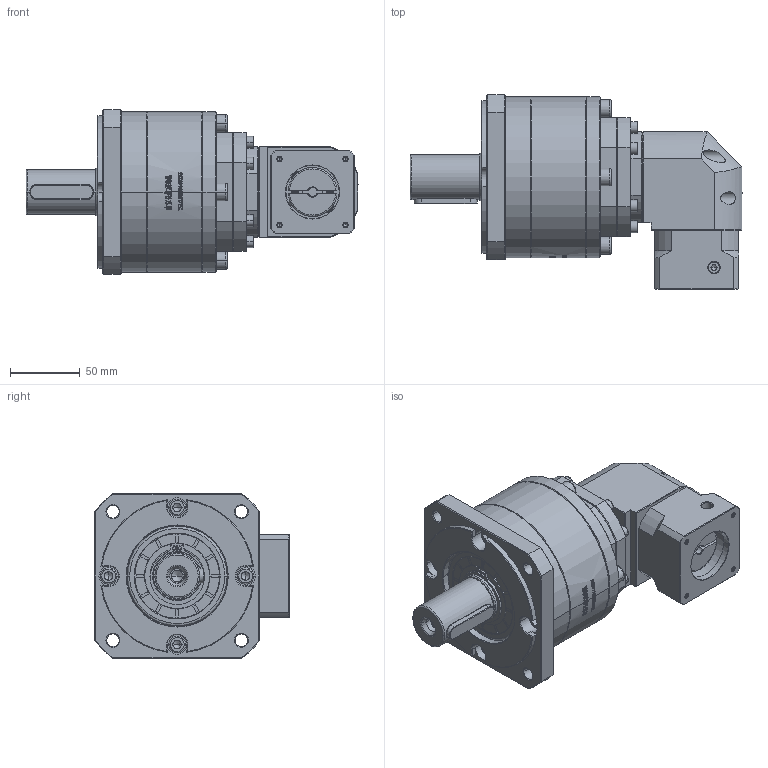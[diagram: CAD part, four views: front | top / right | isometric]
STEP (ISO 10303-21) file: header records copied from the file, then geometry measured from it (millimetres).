
FILE_DESCRIPTION (( 'STEP AP214' ), '1' );
FILE_NAME ('ZFR120A-D32-L3-6.35-38.1-47.14x47.14-M4.step', '2023-03-08T14:55:09', ( '' ), ( 'Microsoft' ), 'SwSTEP 2.0', 'SolidWorks 2016', '' );
FILE_SCHEMA (( 'AUTOMOTIVE_DESIGN' ));
Length unit declared in the file: millimetre
Products named in the file (1): ZFR120A-D32-L3-6.35-38.1-47.14x47.14-M4
Bounding box: 237.5 x 139.2 x 118 mm (x, y, z)
Volume: 1488023.3 mm3; surface area: 141375.1 mm2
Topology: 6 solids, 6 shells, 3039 faces, 8043 edges, 5161 vertices
Faces by surface type: plane 1596, bspline 625, cylinder 458, cone 347, torus 13
Entity records: 160233 total; most frequent: CARTESIAN_POINT 57424, ORIENTED_EDGE 15978, DIRECTION 11848, EDGE_CURVE 7989, VERTEX_POINT 5161, LINE 4994, VECTOR 4994, AXIS2_PLACEMENT_3D 3427
